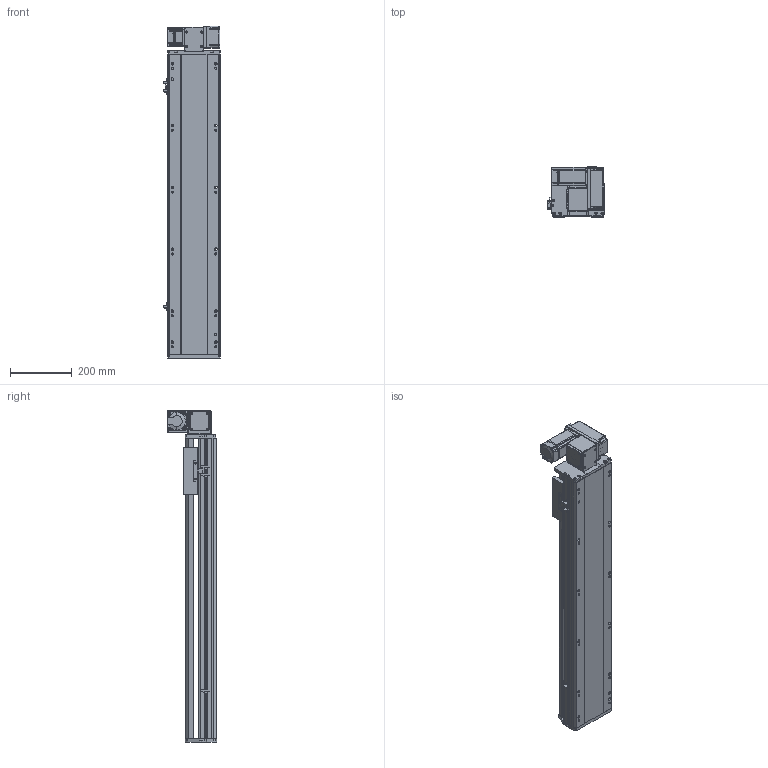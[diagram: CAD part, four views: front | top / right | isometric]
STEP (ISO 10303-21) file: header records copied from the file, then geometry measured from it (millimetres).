
FILE_DESCRIPTION (( 'STEP AP214' ), '1' );
FILE_NAME ('RTB17S-XX-700-RW-M40-C4.STEP', '2025-12-11T08:51:55', ( '' ), ( '' ), 'SwSTEP 2.0', 'SolidWorks 2018', '' );
FILE_SCHEMA (( 'AUTOMOTIVE_DESIGN' ));
Length unit declared in the file: millimetre
Products named in the file (14): RTB14-L-005P--轴承塑胶压盖^RTB17S-RW-皮带座装配-400W_RTB17S-XX-XX-RW-M40-C4; RTB14-L-017P^RTB17S-RW-々湍釱蚾饜-400W_RTB17S-XX-XX-RW-M40-C4; RTB17S-L-001耜醱啣^RTB17S-XX-XX-RW-M40-C4; RTB17S-L-004佪裝蹟譫蟀諉釱^RTB17S-XX-XX-RW-M40-C4; RTB17S-XX-700-RW-M40-C4; RTB17-R-011菁釱^RTB17S-XX-XX-RW-M40-C4; RMP17S-L-014-T20--々湍釱^RTB17S-RW-々湍釱蚾饜-400W_RTB17S-XX-XX-RW-M40-C4; RTB14-L-018P^RTB17S-RW-々湍釱蚾饜-400W_RTB17S-XX-XX-RW-M40-C4; 400W侜督萇儂^RTB17S-XX-XX-RW-M40-C4; OMRON EE-SX672 传感器^RTB17S-XX-XX-RW-M40-C4; RTB17S-L-007奻裔^RTB17S-XX-XX-RW-M40-C4; RTB17S-RW-々湍釱蚾饜-400W^RTB17S-XX-XX-RW-M40-C4; RTB14-L-008-M20--萇儂啣^RTB17S-RW-々湍釱蚾饜-400W_RTB17S-XX-XX-RW-M40-C4; RTH13-BL-012覜茼え俋离^RTB17S-XX-XX-RW-M40-C4
Assembly tree (16 placements, depth 3):
  RTB17S-XX-700-RW-M40-C4
    RTB17-R-011菁釱^RTB17S-XX-XX-RW-M40-C4
    RTB17S-L-007奻裔^RTB17S-XX-XX-RW-M40-C4
    OMRON EE-SX672 传感器^RTB17S-XX-XX-RW-M40-C4  x3
    RTB17S-L-001耜醱啣^RTB17S-XX-XX-RW-M40-C4
    400W侜督萇儂^RTB17S-XX-XX-RW-M40-C4
    RTB17S-L-004佪裝蹟譫蟀諉釱^RTB17S-XX-XX-RW-M40-C4
    RTH13-BL-012覜茼え俋离^RTB17S-XX-XX-RW-M40-C4
    RTB17S-RW-々湍釱蚾饜-400W^RTB17S-XX-XX-RW-M40-C4
      RMP17S-L-014-T20--々湍釱^RTB17S-RW-々湍釱蚾饜-400W_RTB17S-XX-XX-RW-M40-C4
      RTB14-L-005P--轴承塑胶压盖^RTB17S-RW-皮带座装配-400W_RTB17S-XX-XX-RW-M40-C4
      RTB14-L-008-M20--萇儂啣^RTB17S-RW-々湍釱蚾饜-400W_RTB17S-XX-XX-RW-M40-C4
      RTB14-L-017P^RTB17S-RW-々湍釱蚾饜-400W_RTB17S-XX-XX-RW-M40-C4  x2
      RTB14-L-018P^RTB17S-RW-々湍釱蚾饜-400W_RTB17S-XX-XX-RW-M40-C4
Bounding box: 183.5 x 160.5 x 1072.5 mm (x, y, z)
Volume: 9925274.2 mm3; surface area: 1232176.7 mm2
Topology: 15 solids, 15 shells, 2189 faces, 6033 edges, 3933 vertices
Faces by surface type: plane 1066, cylinder 675, bspline 301, cone 139, torus 8
Entity records: 61865 total; most frequent: CARTESIAN_POINT 17238, ORIENTED_EDGE 8910, DIRECTION 8306, EDGE_CURVE 4455, VERTEX_POINT 2921, AXIS2_PLACEMENT_3D 2851, LINE 2604, VECTOR 2604
